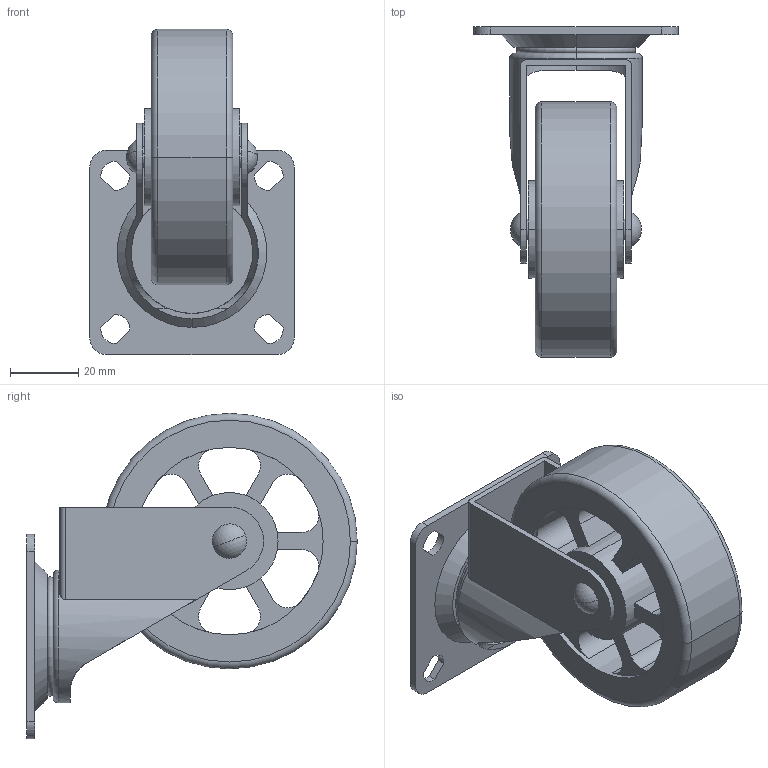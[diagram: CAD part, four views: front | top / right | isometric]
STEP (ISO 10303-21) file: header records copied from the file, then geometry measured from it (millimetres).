
FILE_DESCRIPTION (( 'STEP AP214' ), '1' );
FILE_NAME ('EMMA2-75-P.STEP', '2020-04-07T06:10:38', ( '' ), ( '' ), 'SwSTEP 2.0', 'SolidWorks 2019', '' );
FILE_SCHEMA (( 'AUTOMOTIVE_DESIGN' ));
Length unit declared in the file: millimetre
Products named in the file (5): EMMA-75_jiku; EMMA2-75-P; EMMA2-75_wheel; EMMA-75-P_partsB; EMMA-75-P_partsA
Assembly tree (4 placements, depth 2):
  EMMA2-75-P
    EMMA-75-P_partsB
    EMMA2-75_wheel
    EMMA-75_jiku
    EMMA-75-P_partsA
Bounding box: 60 x 97 x 95.5 mm (x, y, z)
Volume: 101039.6 mm3; surface area: 41186.6 mm2
Topology: 4 solids, 4 shells, 126 faces, 338 edges, 224 vertices
Faces by surface type: plane 58, cylinder 54, torus 8, sphere 4, cone 2
Entity records: 4342 total; most frequent: CARTESIAN_POINT 797, DIRECTION 758, ORIENTED_EDGE 676, EDGE_CURVE 338, AXIS2_PLACEMENT_3D 297, VERTEX_POINT 224, VECTOR 164, LINE 164
